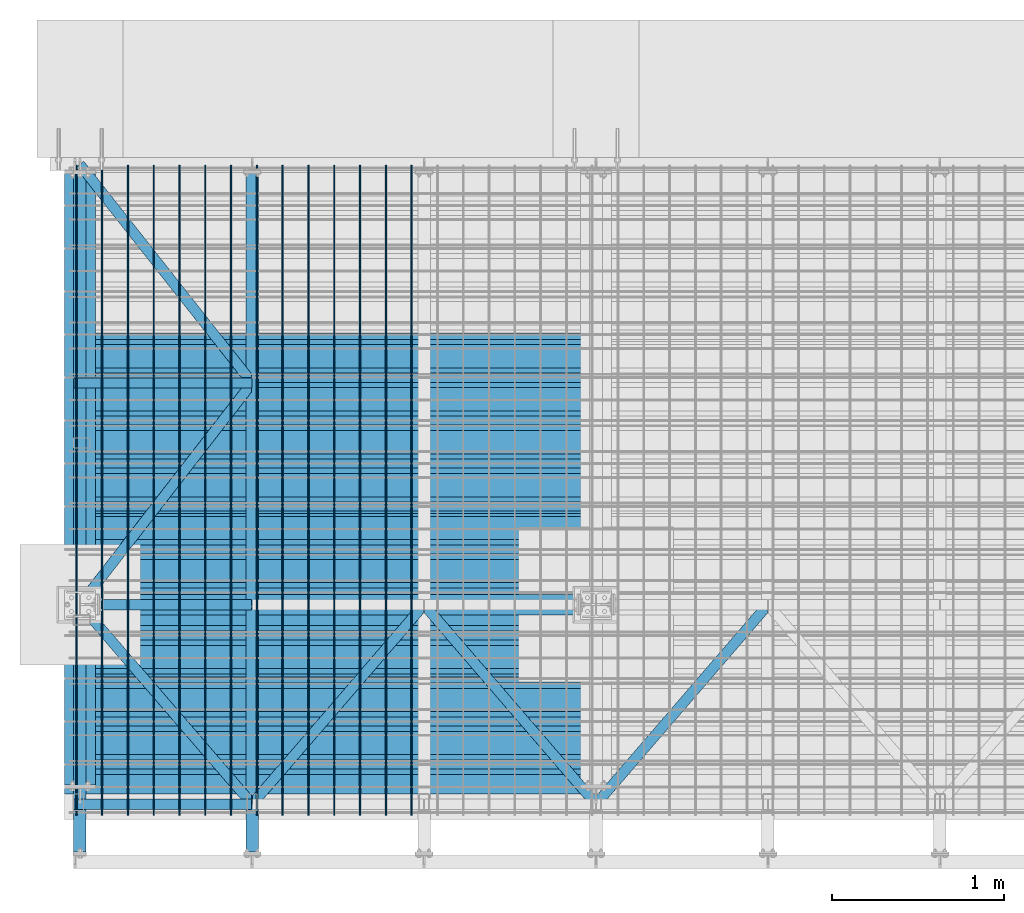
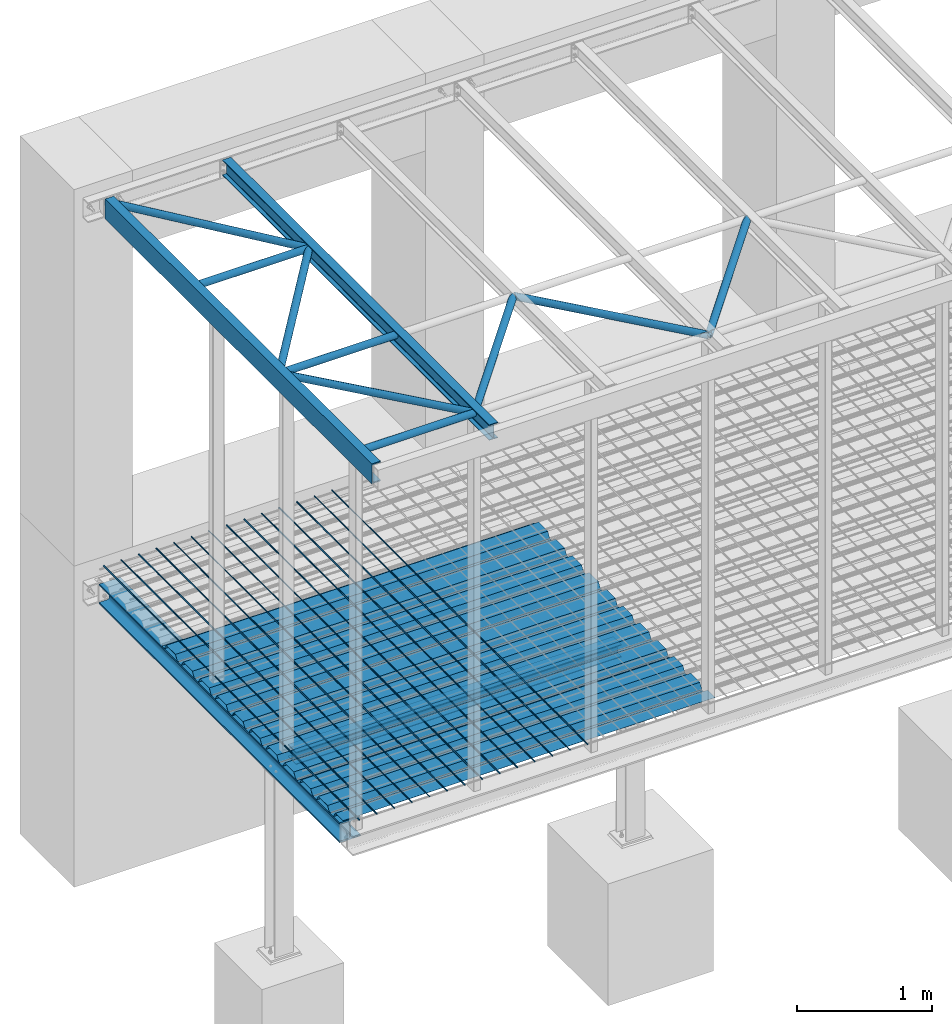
# One storey, part 3 of 26: 30 beams, 30 elements without a shape of their own.
"""IFC2X3 building model written with IfcOpenShell, lengths in millimetres."""

from ifc_helpers import new_model, si_unit, frame, origin_with_axes, origin_2d_with_axis, place, context, subcontext, project, spatial, polyline, circle, hollow_circle, i_section, u_section, outline, extrude, boolean, clip, halfspace, material, type_object, element, aggregate, save


model = new_model("IFC2X3")

# Units and contexts
model_context = context("Model", 3, precision=1e-05, world=origin_with_axes())
body_context = subcontext(model_context, "Body", "Model", "MODEL_VIEW")
ifc_project = project(units=[si_unit("LENGTHUNIT", "METRE", prefix="MILLI"), si_unit("AREAUNIT", "SQUARE_METRE"), si_unit("VOLUMEUNIT", "CUBIC_METRE"), si_unit("MASSUNIT", "GRAM", prefix="KILO"), si_unit("TIMEUNIT", "SECOND"), si_unit("PLANEANGLEUNIT", "RADIAN"), si_unit("SOLIDANGLEUNIT", "STERADIAN"), si_unit("THERMODYNAMICTEMPERATUREUNIT", "DEGREE_CELSIUS"), si_unit("LUMINOUSINTENSITYUNIT", "LUMEN")], contexts=[model_context])

# Site, building, storey
site_placement = place(None, origin_with_axes())
site = spatial("IfcSite", under=ifc_project, at=site_placement, Name="Undefined", CompositionType="ELEMENT")
building_placement = place(site_placement, origin_with_axes())
building = spatial("IfcBuilding", under=site, at=building_placement, Name="Undefined", CompositionType="ELEMENT")
storey_placement = place(building_placement, origin_with_axes())
storey = spatial("IfcBuildingStorey", under=building, at=storey_placement, Name="Undefined", CompositionType="ELEMENT", Elevation=0.0)

# Assembly, beam
assembly_1_placement = place(storey_placement, origin_with_axes())
assembly_1 = element("IfcElementAssembly", 1, at=assembly_1_placement, inside=storey, Name="Steel Assembly", AssemblyPlace="NOTDEFINED", PredefinedType="RIGID_FRAME")
ifc_material = material(Name="STEEL/S235JR")
beam_type_1 = type_object("IfcBeamType", Name="D8", PredefinedType="NOTDEFINED")
beam_1_placement = place(assembly_1_placement, frame((1977.5, 3814.99758213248, -49.0), z_axis=(0.0, 0.0, 1.0), x_axis=(0.0, -1.0, 0.0)))
beam_1 = element("IfcBeam", 2, at=beam_1_placement, type_object=beam_type_1, material=ifc_material, Name="VÝSTUZ PLECHODOSKA", ObjectType="D8", context=body_context, shape_type="SweptSolid", body=[
    extrude(circle(Radius=4.0, at=origin_2d_with_axis()), frame((3779.99758213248, 0.0, 0.0), z_axis=(-1.0, 0.0, 0.0), x_axis=(0.0, -1.0, 0.0)), (0.0, 0.0, 1.0), 3780.0),
])
aggregate(assembly_1, [beam_1])

assembly_2_placement = place(storey_placement, origin_with_axes())
assembly_2 = element("IfcElementAssembly", 3, at=assembly_2_placement, inside=storey, Name="Steel Assembly", AssemblyPlace="NOTDEFINED", PredefinedType="RIGID_FRAME")
beam_2_placement = place(assembly_2_placement, frame((1827.5, 3814.99758213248, -49.0), z_axis=(0.0, 0.0, 1.0), x_axis=(0.0, -1.0, 0.0)))
beam_2 = element("IfcBeam", 4, at=beam_2_placement, type_object=beam_type_1, material=ifc_material, Name="VÝSTUZ PLECHODOSKA", ObjectType="D8", context=body_context, shape_type="SweptSolid", body=[
    extrude(circle(Radius=4.0, at=origin_2d_with_axis()), frame((3779.99758213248, 0.0, 0.0), z_axis=(-1.0, 0.0, 0.0), x_axis=(0.0, -1.0, 0.0)), (0.0, 0.0, 1.0), 3780.0),
])
aggregate(assembly_2, [beam_2])

assembly_3_placement = place(storey_placement, origin_with_axes())
assembly_3 = element("IfcElementAssembly", 5, at=assembly_3_placement, inside=storey, Name="Steel Assembly", AssemblyPlace="NOTDEFINED", PredefinedType="RIGID_FRAME")
beam_3_placement = place(assembly_3_placement, frame((1677.5, 3814.99758213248, -49.0), z_axis=(0.0, 0.0, 1.0), x_axis=(0.0, -1.0, 0.0)))
beam_3 = element("IfcBeam", 6, at=beam_3_placement, type_object=beam_type_1, material=ifc_material, Name="VÝSTUZ PLECHODOSKA", ObjectType="D8", context=body_context, shape_type="SweptSolid", body=[
    extrude(circle(Radius=4.0, at=origin_2d_with_axis()), frame((3779.99758213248, 0.0, 0.0), z_axis=(-1.0, 0.0, 0.0), x_axis=(0.0, -1.0, 0.0)), (0.0, 0.0, 1.0), 3780.0),
])
aggregate(assembly_3, [beam_3])

assembly_4_placement = place(storey_placement, origin_with_axes())
assembly_4 = element("IfcElementAssembly", 7, at=assembly_4_placement, inside=storey, Name="Steel Assembly", AssemblyPlace="NOTDEFINED", PredefinedType="RIGID_FRAME")
beam_4_placement = place(assembly_4_placement, frame((1527.5, 3814.99758213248, -49.0), z_axis=(0.0, 0.0, 1.0), x_axis=(0.0, -1.0, 0.0)))
beam_4 = element("IfcBeam", 8, at=beam_4_placement, type_object=beam_type_1, material=ifc_material, Name="VÝSTUZ PLECHODOSKA", ObjectType="D8", context=body_context, shape_type="SweptSolid", body=[
    extrude(circle(Radius=4.0, at=origin_2d_with_axis()), frame((3779.99758213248, 0.0, 0.0), z_axis=(-1.0, 0.0, 0.0), x_axis=(0.0, -1.0, 0.0)), (0.0, 0.0, 1.0), 3780.0),
])
aggregate(assembly_4, [beam_4])

assembly_5_placement = place(storey_placement, origin_with_axes())
assembly_5 = element("IfcElementAssembly", 9, at=assembly_5_placement, inside=storey, Name="Steel Assembly", AssemblyPlace="NOTDEFINED", PredefinedType="RIGID_FRAME")
beam_5_placement = place(assembly_5_placement, frame((1377.5, 3814.99758213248, -49.0), z_axis=(0.0, 0.0, 1.0), x_axis=(0.0, -1.0, 0.0)))
beam_5 = element("IfcBeam", 10, at=beam_5_placement, type_object=beam_type_1, material=ifc_material, Name="VÝSTUZ PLECHODOSKA", ObjectType="D8", context=body_context, shape_type="SweptSolid", body=[
    extrude(circle(Radius=4.0, at=origin_2d_with_axis()), frame((3779.99758213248, 0.0, 0.0), z_axis=(-1.0, 0.0, 0.0), x_axis=(0.0, -1.0, 0.0)), (0.0, 0.0, 1.0), 3780.0),
])
aggregate(assembly_5, [beam_5])

assembly_6_placement = place(storey_placement, origin_with_axes())
assembly_6 = element("IfcElementAssembly", 11, at=assembly_6_placement, inside=storey, Name="Steel Assembly", AssemblyPlace="NOTDEFINED", PredefinedType="RIGID_FRAME")
beam_6_placement = place(assembly_6_placement, frame((1227.5, 3814.99758213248, -49.0), z_axis=(0.0, 0.0, 1.0), x_axis=(0.0, -1.0, 0.0)))
beam_6 = element("IfcBeam", 12, at=beam_6_placement, type_object=beam_type_1, material=ifc_material, Name="VÝSTUZ PLECHODOSKA", ObjectType="D8", context=body_context, shape_type="SweptSolid", body=[
    extrude(circle(Radius=4.0, at=origin_2d_with_axis()), frame((3779.99758213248, 0.0, 0.0), z_axis=(-1.0, 0.0, 0.0), x_axis=(0.0, -1.0, 0.0)), (0.0, 0.0, 1.0), 3780.0),
])
aggregate(assembly_6, [beam_6])

assembly_7_placement = place(storey_placement, origin_with_axes())
assembly_7 = element("IfcElementAssembly", 13, at=assembly_7_placement, inside=storey, Name="Steel Assembly", AssemblyPlace="NOTDEFINED", PredefinedType="RIGID_FRAME")
beam_7_placement = place(assembly_7_placement, frame((1077.5, 3814.99758213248, -49.0), z_axis=(0.0, 0.0, 1.0), x_axis=(0.0, -1.0, 0.0)))
beam_7 = element("IfcBeam", 14, at=beam_7_placement, type_object=beam_type_1, material=ifc_material, Name="VÝSTUZ PLECHODOSKA", ObjectType="D8", context=body_context, shape_type="SweptSolid", body=[
    extrude(circle(Radius=4.0, at=origin_2d_with_axis()), frame((3779.99758213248, 0.0, 0.0), z_axis=(-1.0, 0.0, 0.0), x_axis=(0.0, -1.0, 0.0)), (0.0, 0.0, 1.0), 3780.0),
])
aggregate(assembly_7, [beam_7])

assembly_8_placement = place(storey_placement, origin_with_axes())
assembly_8 = element("IfcElementAssembly", 15, at=assembly_8_placement, inside=storey, Name="Steel Assembly", AssemblyPlace="NOTDEFINED", PredefinedType="RIGID_FRAME")
beam_8_placement = place(assembly_8_placement, frame((927.5, 3814.99758213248, -49.0), z_axis=(0.0, 0.0, 1.0), x_axis=(0.0, -1.0, 0.0)))
beam_8 = element("IfcBeam", 16, at=beam_8_placement, type_object=beam_type_1, material=ifc_material, Name="VÝSTUZ PLECHODOSKA", ObjectType="D8", context=body_context, shape_type="SweptSolid", body=[
    extrude(circle(Radius=4.0, at=origin_2d_with_axis()), frame((3779.99758213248, 0.0, 0.0), z_axis=(-1.0, 0.0, 0.0), x_axis=(0.0, -1.0, 0.0)), (0.0, 0.0, 1.0), 3780.0),
])
aggregate(assembly_8, [beam_8])

assembly_9_placement = place(storey_placement, origin_with_axes())
assembly_9 = element("IfcElementAssembly", 17, at=assembly_9_placement, inside=storey, Name="Steel Assembly", AssemblyPlace="NOTDEFINED", PredefinedType="RIGID_FRAME")
beam_9_placement = place(assembly_9_placement, frame((777.5, 3814.99758213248, -49.0), z_axis=(0.0, 0.0, 1.0), x_axis=(0.0, -1.0, 0.0)))
beam_9 = element("IfcBeam", 18, at=beam_9_placement, type_object=beam_type_1, material=ifc_material, Name="VÝSTUZ PLECHODOSKA", ObjectType="D8", context=body_context, shape_type="SweptSolid", body=[
    extrude(circle(Radius=4.0, at=origin_2d_with_axis()), frame((3779.99758213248, 0.0, 0.0), z_axis=(-1.0, 0.0, 0.0), x_axis=(0.0, -1.0, 0.0)), (0.0, 0.0, 1.0), 3780.0),
])
aggregate(assembly_9, [beam_9])

assembly_10_placement = place(storey_placement, origin_with_axes())
assembly_10 = element("IfcElementAssembly", 19, at=assembly_10_placement, inside=storey, Name="Steel Assembly", AssemblyPlace="NOTDEFINED", PredefinedType="RIGID_FRAME")
beam_10_placement = place(assembly_10_placement, frame((627.5, 3814.99758213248, -49.0), z_axis=(0.0, 0.0, 1.0), x_axis=(0.0, -1.0, 0.0)))
beam_10 = element("IfcBeam", 20, at=beam_10_placement, type_object=beam_type_1, material=ifc_material, Name="VÝSTUZ PLECHODOSKA", ObjectType="D8", context=body_context, shape_type="SweptSolid", body=[
    extrude(circle(Radius=4.0, at=origin_2d_with_axis()), frame((3779.99758213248, 0.0, 0.0), z_axis=(-1.0, 0.0, 0.0), x_axis=(0.0, -1.0, 0.0)), (0.0, 0.0, 1.0), 3780.0),
])
aggregate(assembly_10, [beam_10])

assembly_11_placement = place(storey_placement, origin_with_axes())
assembly_11 = element("IfcElementAssembly", 21, at=assembly_11_placement, inside=storey, Name="Steel Assembly", AssemblyPlace="NOTDEFINED", PredefinedType="RIGID_FRAME")
beam_11_placement = place(assembly_11_placement, frame((477.5, 3814.99758213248, -49.0), z_axis=(0.0, 0.0, 1.0), x_axis=(0.0, -1.0, 0.0)))
beam_11 = element("IfcBeam", 22, at=beam_11_placement, type_object=beam_type_1, material=ifc_material, Name="VÝSTUZ PLECHODOSKA", ObjectType="D8", context=body_context, shape_type="SweptSolid", body=[
    extrude(circle(Radius=4.0, at=origin_2d_with_axis()), frame((3779.99758213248, 0.0, 0.0), z_axis=(-1.0, 0.0, 0.0), x_axis=(0.0, -1.0, 0.0)), (0.0, 0.0, 1.0), 3780.0),
])
aggregate(assembly_11, [beam_11])

assembly_12_placement = place(storey_placement, origin_with_axes())
assembly_12 = element("IfcElementAssembly", 23, at=assembly_12_placement, inside=storey, Name="Steel Assembly", AssemblyPlace="NOTDEFINED", PredefinedType="RIGID_FRAME")
beam_12_placement = place(assembly_12_placement, frame((327.5, 3814.99758213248, -49.0), z_axis=(0.0, 0.0, 1.0), x_axis=(0.0, -1.0, 0.0)))
beam_12 = element("IfcBeam", 24, at=beam_12_placement, type_object=beam_type_1, material=ifc_material, Name="VÝSTUZ PLECHODOSKA", ObjectType="D8", context=body_context, shape_type="SweptSolid", body=[
    extrude(circle(Radius=4.0, at=origin_2d_with_axis()), frame((3779.99758213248, 0.0, 0.0), z_axis=(-1.0, 0.0, 0.0), x_axis=(0.0, -1.0, 0.0)), (0.0, 0.0, 1.0), 3780.0),
])
aggregate(assembly_12, [beam_12])

assembly_13_placement = place(storey_placement, origin_with_axes())
assembly_13 = element("IfcElementAssembly", 25, at=assembly_13_placement, inside=storey, Name="Steel Assembly", AssemblyPlace="NOTDEFINED", PredefinedType="RIGID_FRAME")
beam_13_placement = place(assembly_13_placement, frame((177.5, 3814.99758213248, -49.0), z_axis=(0.0, 0.0, 1.0), x_axis=(0.0, -1.0, 0.0)))
beam_13 = element("IfcBeam", 26, at=beam_13_placement, type_object=beam_type_1, material=ifc_material, Name="VÝSTUZ PLECHODOSKA", ObjectType="D8", context=body_context, shape_type="SweptSolid", body=[
    extrude(circle(Radius=4.0, at=origin_2d_with_axis()), frame((3779.99758213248, 0.0, 0.0), z_axis=(-1.0, 0.0, 0.0), x_axis=(0.0, -1.0, 0.0)), (0.0, 0.0, 1.0), 3780.0),
])
aggregate(assembly_13, [beam_13])

assembly_14_placement = place(storey_placement, origin_with_axes())
assembly_14 = element("IfcElementAssembly", 27, at=assembly_14_placement, inside=storey, Name="Steel Assembly", AssemblyPlace="NOTDEFINED", PredefinedType="RIGID_FRAME")
beam_14_placement = place(assembly_14_placement, frame((27.5, 3814.99758213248, -49.0), z_axis=(0.0, 0.0, 1.0), x_axis=(0.0, -1.0, 0.0)))
beam_14 = element("IfcBeam", 28, at=beam_14_placement, type_object=beam_type_1, material=ifc_material, Name="VÝSTUZ PLECHODOSKA", ObjectType="D8", context=body_context, shape_type="SweptSolid", body=[
    extrude(circle(Radius=4.0, at=origin_2d_with_axis()), frame((3779.99758213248, 0.0, 0.0), z_axis=(-1.0, 0.0, 0.0), x_axis=(0.0, -1.0, 0.0)), (0.0, 0.0, 1.0), 3780.0),
])
aggregate(assembly_14, [beam_14])

assembly_15_placement = place(storey_placement, origin_with_axes())
assembly_15 = element("IfcElementAssembly", 29, at=assembly_15_placement, inside=storey, Name="Steel Assembly", AssemblyPlace="NOTDEFINED", PredefinedType="RIGID_FRAME")
beam_type_2 = type_object("IfcBeamType", Name="TR50/250", PredefinedType="NOTDEFINED")
beam_15_placement = place(assembly_15_placement, frame((-40.0000000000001, 315.047569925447, -135.38), z_axis=(0.0, 0.0, 1.0), x_axis=(1.0, 0.0, 0.0)))
beam_15 = element("IfcBeam", 30, at=beam_15_placement, type_object=beam_type_2, material=ifc_material, Name="Trapézový plech", ObjectType="TR50/250", context=body_context, shape_type="Clipping", body=[
    clip(extrude(outline(polyline([(-487.739990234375, -24.6299991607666), (-524.950012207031, -24.6200008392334), (-524.950012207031, -23.8700008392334), (-488.149993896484, -23.8700008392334), (-457.649993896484, 24.6299991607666), (-322.239990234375, 24.6299991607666), (-291.739990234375, -23.8700008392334), (-238.149993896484, -23.8700008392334), (-207.649993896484, 24.6299991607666), (-72.2399978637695, 24.6299991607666), (-41.7400016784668, -23.8700008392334), (11.8500003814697, -23.8700008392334), (42.3499984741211, 24.6299991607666), (177.759994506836, 24.6299991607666), (208.259994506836, -23.8700008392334), (261.850006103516, -23.8700008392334), (292.350006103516, 24.6299991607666), (427.760009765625, 24.6299991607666), (458.260009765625, -23.8700008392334), (511.850006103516, -23.8700008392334), (524.309997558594, -4.05000019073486), (524.950012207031, -4.44999980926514), (512.260009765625, -24.6200008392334), (457.850006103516, -24.6200008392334), (427.350006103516, 23.8799991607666), (292.760009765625, 23.8799991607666), (262.260009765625, -24.6200008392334), (207.850006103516, -24.6200008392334), (177.350006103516, 23.8799991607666), (42.7599983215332, 23.8799991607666), (12.2600002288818, -24.6200008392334), (-42.1500015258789, -24.6200008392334), (-72.6500015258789, 23.8799991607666), (-207.240005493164, 23.8799991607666), (-237.740005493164, -24.6200008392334), (-292.149993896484, -24.6200008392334), (-322.649993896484, 23.8799991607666), (-457.239990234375, 23.8799991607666), (-487.739990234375, -24.6299991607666)])), frame((3180.0, 0.0, 0.0), z_axis=(-1.0, 0.0, 0.0), x_axis=(0.0, -1.0, 0.0)), (0.0, 0.0, 1.0), 3180.0), halfspace(frame((365.0, -155.047569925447, -55.0), z_axis=(0.0, -1.0, 0.0), x_axis=(0.0, 0.0, 1.0)), False)),
])
aggregate(assembly_15, [beam_15])

assembly_16_placement = place(storey_placement, origin_with_axes())
assembly_16 = element("IfcElementAssembly", 31, at=assembly_16_placement, inside=storey, Name="Steel Assembly", AssemblyPlace="NOTDEFINED", PredefinedType="RIGID_FRAME")
beam_16_placement = place(assembly_16_placement, frame((-40.0000000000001, 1315.04756992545, -135.38), z_axis=(0.0, 0.0, 1.0), x_axis=(1.0, 0.0, 0.0)))
beam_16 = element("IfcBeam", 32, at=beam_16_placement, type_object=beam_type_2, material=ifc_material, Name="Trapézový plech", ObjectType="TR50/250", context=body_context, shape_type="SweptSolid", body=[
    extrude(outline(polyline([(-487.739990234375, -24.6299991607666), (-524.950012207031, -24.6200008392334), (-524.950012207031, -23.8700008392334), (-488.149993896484, -23.8700008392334), (-457.649993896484, 24.6299991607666), (-322.239990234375, 24.6299991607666), (-291.739990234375, -23.8700008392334), (-238.149993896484, -23.8700008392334), (-207.649993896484, 24.6299991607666), (-72.2399978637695, 24.6299991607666), (-41.7400016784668, -23.8700008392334), (11.8500003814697, -23.8700008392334), (42.3499984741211, 24.6299991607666), (177.759994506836, 24.6299991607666), (208.259994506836, -23.8700008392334), (261.850006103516, -23.8700008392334), (292.350006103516, 24.6299991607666), (427.760009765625, 24.6299991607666), (458.260009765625, -23.8700008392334), (511.850006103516, -23.8700008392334), (524.309997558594, -4.05000019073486), (524.950012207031, -4.44999980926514), (512.260009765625, -24.6200008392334), (457.850006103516, -24.6200008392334), (427.350006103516, 23.8799991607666), (292.760009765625, 23.8799991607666), (262.260009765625, -24.6200008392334), (207.850006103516, -24.6200008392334), (177.350006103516, 23.8799991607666), (42.7599983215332, 23.8799991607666), (12.2600002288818, -24.6200008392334), (-42.1500015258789, -24.6200008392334), (-72.6500015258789, 23.8799991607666), (-207.240005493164, 23.8799991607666), (-237.740005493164, -24.6200008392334), (-292.149993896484, -24.6200008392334), (-322.649993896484, 23.8799991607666), (-457.239990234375, 23.8799991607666), (-487.739990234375, -24.6299991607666)])), frame((3180.0, 0.0, 0.0), z_axis=(-1.0, 0.0, 0.0), x_axis=(0.0, -1.0, 0.0)), (0.0, 0.0, 1.0), 3180.0),
])
aggregate(assembly_16, [beam_16])

assembly_17_placement = place(storey_placement, origin_with_axes())
assembly_17 = element("IfcElementAssembly", 33, at=assembly_17_placement, inside=storey, Name="Steel Assembly", AssemblyPlace="NOTDEFINED", PredefinedType="RIGID_FRAME")
beam_17_placement = place(assembly_17_placement, frame((-40.0000000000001, 2315.04756992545, -135.38), z_axis=(0.0, 0.0, 1.0), x_axis=(1.0, 0.0, 0.0)))
beam_17 = element("IfcBeam", 34, at=beam_17_placement, type_object=beam_type_2, material=ifc_material, Name="Trapézový plech", ObjectType="TR50/250", context=body_context, shape_type="SweptSolid", body=[
    extrude(outline(polyline([(-487.739990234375, -24.6299991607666), (-524.950012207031, -24.6200008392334), (-524.950012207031, -23.8700008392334), (-488.149993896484, -23.8700008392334), (-457.649993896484, 24.6299991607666), (-322.239990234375, 24.6299991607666), (-291.739990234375, -23.8700008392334), (-238.149993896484, -23.8700008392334), (-207.649993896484, 24.6299991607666), (-72.2399978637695, 24.6299991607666), (-41.7400016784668, -23.8700008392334), (11.8500003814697, -23.8700008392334), (42.3499984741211, 24.6299991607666), (177.759994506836, 24.6299991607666), (208.259994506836, -23.8700008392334), (261.850006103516, -23.8700008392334), (292.350006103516, 24.6299991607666), (427.760009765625, 24.6299991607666), (458.260009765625, -23.8700008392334), (511.850006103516, -23.8700008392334), (524.309997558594, -4.05000019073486), (524.950012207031, -4.44999980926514), (512.260009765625, -24.6200008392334), (457.850006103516, -24.6200008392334), (427.350006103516, 23.8799991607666), (292.760009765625, 23.8799991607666), (262.260009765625, -24.6200008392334), (207.850006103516, -24.6200008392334), (177.350006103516, 23.8799991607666), (42.7599983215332, 23.8799991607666), (12.2600002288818, -24.6200008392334), (-42.1500015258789, -24.6200008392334), (-72.6500015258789, 23.8799991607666), (-207.240005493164, 23.8799991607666), (-237.740005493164, -24.6200008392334), (-292.149993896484, -24.6200008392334), (-322.649993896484, 23.8799991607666), (-457.239990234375, 23.8799991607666), (-487.739990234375, -24.6299991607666)])), frame((3180.0, 0.0, 0.0), z_axis=(-1.0, 0.0, 0.0), x_axis=(0.0, -1.0, 0.0)), (0.0, 0.0, 1.0), 3180.0),
])
aggregate(assembly_17, [beam_17])

assembly_18_placement = place(storey_placement, origin_with_axes())
assembly_18 = element("IfcElementAssembly", 35, at=assembly_18_placement, inside=storey, Name="Steel Assembly", AssemblyPlace="NOTDEFINED", PredefinedType="RIGID_FRAME")
beam_type_3 = type_object("IfcBeamType", Name="HEB180", PredefinedType="NOTDEFINED")
beam_18_placement = place(assembly_18_placement, frame((50.0, 210.0, -250.0), z_axis=(0.0, 0.0, 1.0), x_axis=(0.0, 1.0, 0.0)))
beam_18 = element("IfcBeam", 36, at=beam_18_placement, type_object=beam_type_3, material=ifc_material, Name="NOSNÍK", ObjectType="HEB180", context=body_context, shape_type="SweptSolid", body=[
    extrude(i_section(OverallWidth=180.0, OverallDepth=180.0, WebThickness=8.5, FlangeThickness=14.0, FilletRadius=15.0, at=origin_2d_with_axis()), frame((3557.0, 0.0, 0.0), z_axis=(-1.0, 0.0, 0.0), x_axis=(0.0, -1.0, 0.0)), (0.0, 0.0, 1.0), 3557.0),
])
aggregate(assembly_18, [beam_18])

assembly_19_placement = place(storey_placement, origin_with_axes())
assembly_19 = element("IfcElementAssembly", 37, at=assembly_19_placement, inside=storey, Name="Steel Assembly", AssemblyPlace="NOTDEFINED", PredefinedType="RIGID_FRAME")
beam_type_4 = type_object("IfcBeamType", Name="UPE180", PredefinedType="NOTDEFINED")
beam_19_placement = place(assembly_19_placement, frame((47.5, -179.999999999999, 3210.0), z_axis=(0.0, 0.0, 1.0), x_axis=(0.0, 1.0, 0.0)))
beam_19 = element("IfcBeam", 38, at=beam_19_placement, type_object=beam_type_4, material=ifc_material, Name="NOSNÍK", ObjectType="UPE180", context=body_context, shape_type="SweptSolid", body=[
    extrude(u_section(Depth=180.0, FlangeWidth=75.0, WebThickness=5.5, FlangeThickness=10.5, FilletRadius=12.0, at=origin_2d_with_axis()), frame((3945.0, 0.0, 0.0), z_axis=(-1.0, 0.0, 0.0), x_axis=(0.0, -1.0, 0.0)), (0.0, 0.0, 1.0), 3945.0),
])
aggregate(assembly_19, [beam_19])

assembly_20_placement = place(storey_placement, origin_with_axes())
assembly_20 = element("IfcElementAssembly", 39, at=assembly_20_placement, inside=storey, Name="Steel Assembly", AssemblyPlace="NOTDEFINED", PredefinedType="RIGID_FRAME")
beam_type_5 = type_object("IfcBeamType", Name="HEA120", PredefinedType="NOTDEFINED")
beam_20_placement = place(assembly_20_placement, frame((160.0, 1260.0, -250.0), z_axis=(0.0, 0.0, -1.0), x_axis=(1.0, 0.0, 0.0)))
beam_20 = element("IfcBeam", 40, at=beam_20_placement, type_object=beam_type_5, material=ifc_material, Name="NOSNÍK", ObjectType="HEA120", context=body_context, shape_type="SweptSolid", body=[
    extrude(i_section(OverallWidth=120.0, OverallDepth=114.0, WebThickness=5.0, FlangeThickness=8.0, FilletRadius=12.0, at=origin_2d_with_axis()), frame((2780.0, 0.0, 0.0), z_axis=(-1.0, 0.0, 0.0), x_axis=(0.0, -1.0, 0.0)), (0.0, 0.0, 1.0), 2780.0),
])
aggregate(assembly_20, [beam_20])

assembly_21_placement = place(storey_placement, origin_with_axes())
assembly_21 = element("IfcElementAssembly", 41, at=assembly_21_placement, inside=storey, Name="Steel Assembly", AssemblyPlace="NOTDEFINED", PredefinedType="RIGID_FRAME")
beam_type_6 = type_object("IfcBeamType", Name="CHS60.3*5", PredefinedType="NOTDEFINED")
beam_21_placement = place(assembly_21_placement, frame((15.5, 2550.0, 3230.0), z_axis=(0.0, 0.0, -1.0), x_axis=(1.0, 0.0, 0.0)))
beam_21 = element("IfcBeam", 42, at=beam_21_placement, type_object=beam_type_6, material=ifc_material, Name="NOSNÍK", ObjectType="CHS60.3*5", context=body_context, shape_type="SweptSolid", body=[
    extrude(hollow_circle(Radius=30.15, WallThickness=5.0, at=origin_2d_with_axis()), frame((1034.5, 0.0, 0.0), z_axis=(-1.0, 0.0, 0.0), x_axis=(0.0, -1.0, 0.0)), (0.0, 0.0, 1.0), 1034.5),
])
aggregate(assembly_21, [beam_21])

assembly_22_placement = place(storey_placement, origin_with_axes())
assembly_22 = element("IfcElementAssembly", 43, at=assembly_22_placement, inside=storey, Name="Steel Assembly", AssemblyPlace="NOTDEFINED", PredefinedType="RIGID_FRAME")
beam_22_placement = place(assembly_22_placement, frame((3050.0, 100.0, 3230.0), z_axis=(0.0, 0.0, -1.0), x_axis=(0.652939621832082, 0.757409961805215, 0.0)))
beam_22 = element("IfcBeam", 44, at=beam_22_placement, type_object=beam_type_6, material=ifc_material, Name="NOSNÍK", ObjectType="CHS60.3*5", context=body_context, shape_type="CSG", body=[
    boolean("DIFFERENCE", boolean("DIFFERENCE", boolean("DIFFERENCE", boolean("DIFFERENCE", extrude(hollow_circle(Radius=30.15, WallThickness=5.0, at=origin_2d_with_axis()), frame((1531.53517752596, -1.81898940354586e-12, 0.0), z_axis=(-1.0, 0.0, 0.0), x_axis=(0.0, -1.0, 0.0)), (0.0, 0.0, 1.0), 1531.5), extrude(hollow_circle(Radius=30.15, WallThickness=5.0, at=origin_2d_with_axis()), frame((1530.00076941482, -1.77991293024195, 0.0), z_axis=(-0.652939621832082, -0.757409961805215, 0.0), x_axis=(0.757409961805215, -0.652939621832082, 0.0)), (0.0, 0.0, 1.0), 995.3)), extrude(hollow_circle(Radius=30.15, WallThickness=5.0, at=origin_2d_with_axis()), frame((651.405213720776, 755.630048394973, 0.0), z_axis=(-0.652939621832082, -0.757409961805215, 0.0), x_axis=(0.757409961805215, -0.652939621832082, 0.0)), (0.0, 0.0, 1.0), 995.3)), halfspace(frame((1562.9100704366, -30.1499999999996, -30.1500000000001), z_axis=(0.652939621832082, 0.757409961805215, 0.0), x_axis=(0.0, 0.0, 1.0)), False)), halfspace(frame((-31.3748924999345, 30.1499999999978, -30.1500000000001), z_axis=(-0.652939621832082, -0.757409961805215, 0.0), x_axis=(0.0, 0.0, 1.0)), False)),
])
aggregate(assembly_22, [beam_22])

assembly_23_placement = place(storey_placement, origin_with_axes())
assembly_23 = element("IfcElementAssembly", 45, at=assembly_23_placement, inside=storey, Name="Steel Assembly", AssemblyPlace="NOTDEFINED", PredefinedType="RIGID_FRAME")
beam_23_placement = place(assembly_23_placement, frame((2049.99999972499, 1260.00000021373, 3230.0), z_axis=(0.0, 0.0, -1.0), x_axis=(0.652939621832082, -0.757409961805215, 0.0)))
beam_23 = element("IfcBeam", 46, at=beam_23_placement, type_object=beam_type_6, material=ifc_material, Name="NOSNÍK", ObjectType="CHS60.3*5", context=body_context, shape_type="CSG", body=[
    boolean("DIFFERENCE", boolean("DIFFERENCE", boolean("DIFFERENCE", boolean("DIFFERENCE", extrude(hollow_circle(Radius=30.15, WallThickness=5.0, at=origin_2d_with_axis()), frame((1531.53517752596, -1.81898940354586e-12, 0.0), z_axis=(-1.0, 0.0, 0.0), x_axis=(0.0, -1.0, 0.0)), (0.0, 0.0, 1.0), 1531.5), extrude(hollow_circle(Radius=30.15, WallThickness=5.0, at=origin_2d_with_axis()), frame((651.405214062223, -755.630048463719, 0.0), z_axis=(-0.652939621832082, 0.757409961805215, 0.0), x_axis=(-0.757409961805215, -0.652939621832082, 0.0)), (0.0, 0.0, 1.0), 995.3)), extrude(hollow_circle(Radius=30.15, WallThickness=5.0, at=origin_2d_with_axis()), frame((1530.00076975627, 1.77991286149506, 9.09494701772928e-13), z_axis=(-0.652939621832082, 0.757409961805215, 0.0), x_axis=(-0.757409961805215, -0.652939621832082, 0.0)), (0.0, 0.0, 1.0), 995.3)), halfspace(frame((38.5731081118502, 30.1499999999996, -30.1499999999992), z_axis=(-0.652939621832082, 0.757409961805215, 0.0), x_axis=(0.0, 0.0, 1.0)), False)), halfspace(frame((1562.91007051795, 30.1499999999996, 30.150000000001), z_axis=(0.652939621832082, -0.757409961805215, 0.0), x_axis=(0.0, 0.0, -1.0)), False)),
])
aggregate(assembly_23, [beam_23])

assembly_24_placement = place(storey_placement, origin_with_axes())
assembly_24 = element("IfcElementAssembly", 47, at=assembly_24_placement, inside=storey, Name="Steel Assembly", AssemblyPlace="NOTDEFINED", PredefinedType="RIGID_FRAME")
beam_24_placement = place(assembly_24_placement, frame((1050.0, 100.0, 3230.0), z_axis=(0.0, 0.0, -1.0), x_axis=(0.652939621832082, 0.757409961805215, 0.0)))
beam_24 = element("IfcBeam", 48, at=beam_24_placement, type_object=beam_type_6, material=ifc_material, Name="NOSNÍK", ObjectType="CHS60.3*5", context=body_context, shape_type="CSG", body=[
    boolean("DIFFERENCE", boolean("DIFFERENCE", boolean("DIFFERENCE", boolean("DIFFERENCE", extrude(hollow_circle(Radius=30.15, WallThickness=5.0, at=origin_2d_with_axis()), frame((1531.53517752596, -1.81898940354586e-12, 0.0), z_axis=(-1.0, 0.0, 0.0), x_axis=(0.0, -1.0, 0.0)), (0.0, 0.0, 1.0), 1531.5), extrude(hollow_circle(Radius=30.15, WallThickness=5.0, at=origin_2d_with_axis()), frame((1530.00076941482, -1.77991293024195, 0.0), z_axis=(-0.652939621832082, -0.757409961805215, 0.0), x_axis=(0.757409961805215, -0.652939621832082, 0.0)), (0.0, 0.0, 1.0), 995.3)), extrude(hollow_circle(Radius=30.15, WallThickness=5.0, at=origin_2d_with_axis()), frame((652.939621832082, 757.409961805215, 9.09494701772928e-13), z_axis=(-0.652939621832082, -0.757409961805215, 0.0), x_axis=(0.757409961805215, -0.652939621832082, 0.0)), (0.0, 0.0, 1.0), 997.7)), halfspace(frame((1562.9100704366, -30.1499999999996, -30.1500000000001), z_axis=(0.652939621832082, 0.757409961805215, 0.0), x_axis=(0.0, 0.0, 1.0)), False)), halfspace(frame((-31.3748924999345, 30.1499999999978, -30.1500000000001), z_axis=(-0.652939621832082, -0.757409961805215, 0.0), x_axis=(0.0, 0.0, 1.0)), False)),
])
aggregate(assembly_24, [beam_24])

assembly_25_placement = place(storey_placement, origin_with_axes())
assembly_25 = element("IfcElementAssembly", 49, at=assembly_25_placement, inside=storey, Name="Steel Assembly", AssemblyPlace="NOTDEFINED", PredefinedType="RIGID_FRAME")
beam_25_placement = place(assembly_25_placement, frame((53.4274012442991, 1256.00000021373, 3230.0), z_axis=(0.0, 0.0, -1.0), x_axis=(0.652939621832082, -0.757409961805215, 0.0)))
beam_25 = element("IfcBeam", 50, at=beam_25_placement, type_object=beam_type_6, material=ifc_material, Name="NOSNÍK", ObjectType="CHS60.3*5", context=body_context, shape_type="CSG", body=[
    boolean("DIFFERENCE", boolean("DIFFERENCE", boolean("DIFFERENCE", extrude(hollow_circle(Radius=30.15, WallThickness=5.0, at=origin_2d_with_axis()), frame((1531.53517752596, -1.81898940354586e-12, 0.0), z_axis=(-1.0, 0.0, 0.0), x_axis=(0.0, -1.0, 0.0)), (0.0, 0.0, 1.0), 1531.5), extrude(hollow_circle(Radius=30.15, WallThickness=5.0, at=origin_2d_with_axis()), frame((1524.73324365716, 1.76410242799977, 4.54747350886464e-13), z_axis=(-0.652939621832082, 0.757409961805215, 0.0), x_axis=(-0.757409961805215, -0.652939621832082, 0.0)), (0.0, 0.0, 1.0), 1032.2)), extrude(hollow_circle(Radius=30.15, WallThickness=5.0, at=origin_2d_with_axis()), frame((647.67209607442, -757.425772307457, 4.54747350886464e-13), z_axis=(-0.652939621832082, 0.757409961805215, 0.0), x_axis=(-0.757409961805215, -0.652939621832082, 0.0)), (0.0, 0.0, 1.0), 1034.5)), halfspace(frame((1557.66088500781, 30.1500000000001, 30.1500000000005), z_axis=(0.652939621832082, -0.757409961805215, 0.0), x_axis=(0.0, 0.0, -1.0)), False)),
])
aggregate(assembly_25, [beam_25])

assembly_26_placement = place(storey_placement, origin_with_axes())
assembly_26 = element("IfcElementAssembly", 51, at=assembly_26_placement, inside=storey, Name="Steel Assembly", AssemblyPlace="NOTDEFINED", PredefinedType="RIGID_FRAME")
beam_26_placement = place(assembly_26_placement, frame((15.5, 100.0, 3230.0), z_axis=(0.0, 0.0, -1.0), x_axis=(1.0, 0.0, 0.0)))
beam_26 = element("IfcBeam", 52, at=beam_26_placement, type_object=beam_type_6, material=ifc_material, Name="NOSNÍK", ObjectType="CHS60.3*5", context=body_context, shape_type="SweptSolid", body=[
    extrude(hollow_circle(Radius=30.15, WallThickness=5.0, at=origin_2d_with_axis()), frame((1032.15, 0.0, 0.0), z_axis=(-1.0, 0.0, 0.0), x_axis=(0.0, -1.0, 0.0)), (0.0, 0.0, 1.0), 1032.2),
])
aggregate(assembly_26, [beam_26])

assembly_27_placement = place(storey_placement, origin_with_axes())
assembly_27 = element("IfcElementAssembly", 53, at=assembly_27_placement, inside=storey, Name="Steel Assembly", AssemblyPlace="NOTDEFINED", PredefinedType="RIGID_FRAME")
beam_27_placement = place(assembly_27_placement, frame((1050.00000007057, 2550.00000005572, 3230.00000000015), z_axis=(0.0, 0.0, 1.0), x_axis=(-0.612667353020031, -0.79034088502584, 0.0)))
beam_27 = element("IfcBeam", 54, at=beam_27_placement, type_object=beam_type_6, material=ifc_material, Name="NOSNÍK", ObjectType="CHS60.3*5", context=body_context, shape_type="CSG", body=[
    boolean("DIFFERENCE", boolean("DIFFERENCE", boolean("DIFFERENCE", extrude(hollow_circle(Radius=30.15, WallThickness=5.0, at=origin_2d_with_axis()), frame((1632.20709478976, -2.71817084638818e-13, 0.0), z_axis=(-1.0, 0.0, 0.0), x_axis=(0.0, -1.0, 0.0)), (0.0, 0.0, 1.0), 1632.2), extrude(hollow_circle(Radius=30.15, WallThickness=5.0, at=origin_2d_with_axis()), frame((1019.5397417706, 790.340885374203, -1.50976120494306e-10), z_axis=(0.612667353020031, -0.79034088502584, 0.0), x_axis=(-0.79034088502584, -0.612667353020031, 0.0)), (0.0, 0.0, 1.0), 1034.5)), extrude(hollow_circle(Radius=30.15, WallThickness=5.0, at=origin_2d_with_axis()), frame((0.0, 0.0, 0.0), z_axis=(0.612667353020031, -0.79034088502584, 0.0), x_axis=(-0.79034088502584, -0.612667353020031, 0.0)), (0.0, 0.0, 1.0), 1034.5)), halfspace(frame((42.7291866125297, 30.15, -30.1500000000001), z_axis=(-0.612667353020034, 0.790340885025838, 0.0), x_axis=(0.0, 0.0, 1.0)), False)),
])
aggregate(assembly_27, [beam_27])

assembly_28_placement = place(storey_placement, origin_with_axes())
assembly_28 = element("IfcElementAssembly", 55, at=assembly_28_placement, inside=storey, Name="Steel Assembly", AssemblyPlace="NOTDEFINED", PredefinedType="RIGID_FRAME")
beam_28_placement = place(assembly_28_placement, frame((47.5000000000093, 3820.0, 3230.0), z_axis=(0.0, 0.0, -1.0), x_axis=(0.619594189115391, -0.784922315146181, 0.0)))
beam_28 = element("IfcBeam", 56, at=beam_28_placement, type_object=beam_type_6, material=ifc_material, Name="NOSNÍK", ObjectType="CHS60.3*5", context=body_context, shape_type="CSG", body=[
    boolean("DIFFERENCE", boolean("DIFFERENCE", extrude(hollow_circle(Radius=30.15, WallThickness=5.0, at=origin_2d_with_axis()), frame((1617.99451482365, 0.0, 0.0), z_axis=(-1.0, 0.0, 0.0), x_axis=(0.0, -1.0, 0.0)), (0.0, 0.0, 1.0), 1618.0), extrude(hollow_circle(Radius=30.15, WallThickness=5.0, at=origin_2d_with_axis()), frame((1617.99451482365, 0.0, 0.0), z_axis=(-0.619594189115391, 0.784922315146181, 0.0), x_axis=(-0.784922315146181, -0.619594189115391, 0.0)), (0.0, 0.0, 1.0), 1034.5)), halfspace(frame((1652.39672334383, 30.1499999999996, 30.1500000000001), z_axis=(0.619594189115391, -0.784922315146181, 0.0), x_axis=(0.0, 0.0, -1.0)), False)),
])
aggregate(assembly_28, [beam_28])

assembly_29_placement = place(storey_placement, origin_with_axes())
assembly_29 = element("IfcElementAssembly", 57, at=assembly_29_placement, inside=storey, Name="Steel Assembly", AssemblyPlace="NOTDEFINED", PredefinedType="RIGID_FRAME")
beam_29_placement = place(assembly_29_placement, frame((15.5, 1260.0, 3230.0), z_axis=(0.0, 0.0, -1.0), x_axis=(1.0, 0.0, 0.0)))
beam_29 = element("IfcBeam", 58, at=beam_29_placement, type_object=beam_type_6, material=ifc_material, Name="NOSNÍK", ObjectType="CHS60.3*5", context=body_context, shape_type="SweptSolid", body=[
    extrude(hollow_circle(Radius=30.15, WallThickness=5.0, at=origin_2d_with_axis()), frame((1032.15, 0.0, 0.0), z_axis=(-1.0, 0.0, 0.0), x_axis=(0.0, -1.0, 0.0)), (0.0, 0.0, 1.0), 1032.2),
])
aggregate(assembly_29, [beam_29])

assembly_30_placement = place(storey_placement, origin_with_axes())
assembly_30 = element("IfcElementAssembly", 59, at=assembly_30_placement, inside=storey, Name="Steel Assembly", AssemblyPlace="NOTDEFINED", PredefinedType="RIGID_FRAME")
beam_type_7 = type_object("IfcBeamType", Name="IPE140", PredefinedType="NOTDEFINED")
beam_30_placement = place(assembly_30_placement, frame((1050.0, -180.0, 3230.0), z_axis=(0.0, 0.0, 1.0), x_axis=(0.0, 1.0, 0.0)))
beam_30 = element("IfcBeam", 60, at=beam_30_placement, type_object=beam_type_7, material=ifc_material, Name="NOSNÍK", ObjectType="IPE140", context=body_context, shape_type="SweptSolid", body=[
    extrude(i_section(OverallWidth=73.0, OverallDepth=140.0, WebThickness=4.699999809, FlangeThickness=6.900000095, FilletRadius=7.0, at=origin_2d_with_axis()), frame((3947.0, 0.0, 0.0), z_axis=(-1.0, 0.0, 0.0), x_axis=(0.0, -1.0, 0.0)), (0.0, 0.0, 1.0), 3947.0),
])
aggregate(assembly_30, [beam_30])

save(model, "model.ifc")
